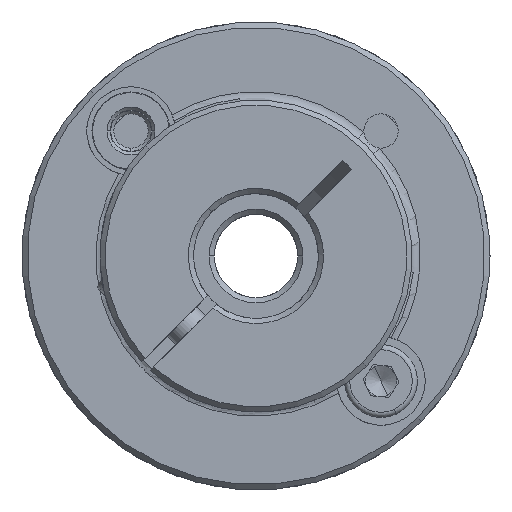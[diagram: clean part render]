
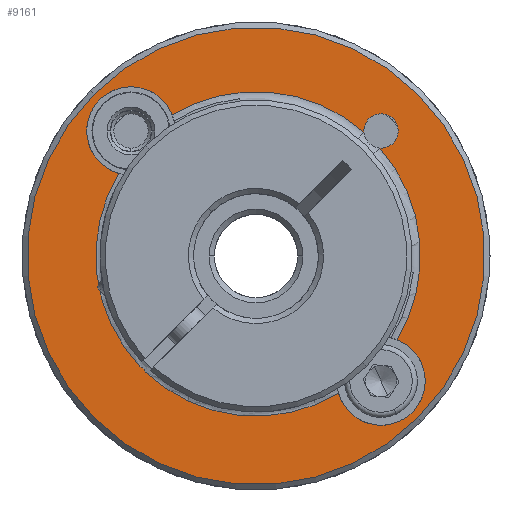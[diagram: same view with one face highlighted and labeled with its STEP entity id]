
A CAD part, front view. The second image highlights one B-rep face of the part: STEP entity #9161.
In plain terms, the highlighted planar face has unit normal (0, -1, 0).
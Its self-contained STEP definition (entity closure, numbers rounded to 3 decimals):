
#272 = ORIENTED_EDGE ( 'NONE', *, *, #9787, .T. ) ;
#445 = EDGE_LOOP ( 'NONE', ( #13131, #5374, #3339, #1591, #6461, #6977, #13062, #6037, #9650, #4809, #272, #13833 ) ) ;
#714 = AXIS2_PLACEMENT_3D ( 'NONE', #5473, #901, #5586 ) ;
#796 = FACE_BOUND ( 'NONE', #445, .T. ) ;
#819 = VERTEX_POINT ( 'NONE', #7408 ) ;
#901 = DIRECTION ( 'NONE',  ( 0., 1., 0. ) ) ;
#1108 = CIRCLE ( 'NONE', #8587, 22. ) ;
#1219 = DIRECTION ( 'NONE',  ( 0., -1., 0. ) ) ;
#1287 = CARTESIAN_POINT ( 'NONE',  ( 6.646, -12.641, 29.444 ) ) ;
#1583 = EDGE_CURVE ( 'NONE', #12409, #11974, #7886, .T. ) ;
#1591 = ORIENTED_EDGE ( 'NONE', *, *, #12467, .T. ) ;
#1984 = AXIS2_PLACEMENT_3D ( 'NONE', #7387, #3856, #11853 ) ;
#2005 = CARTESIAN_POINT ( 'NONE',  ( -23.937, -12.641, 60.026 ) ) ;
#3235 = EDGE_CURVE ( 'NONE', #6615, #8307, #5824, .T. ) ;
#3339 = ORIENTED_EDGE ( 'NONE', *, *, #4443, .T. ) ;
#3373 = CIRCLE ( 'NONE', #14863, 15.8 ) ;
#3589 = DIRECTION ( 'NONE',  ( -0.707, 0., 0.707 ) ) ;
#3856 = DIRECTION ( 'NONE',  ( 0., 1., 0. ) ) ;
#3872 = EDGE_LOOP ( 'NONE', ( #12657, #14725 ) ) ;
#3914 = AXIS2_PLACEMENT_3D ( 'NONE', #14069, #8181, #7040 ) ;
#4218 = EDGE_CURVE ( 'NONE', #6480, #9686, #5227, .T. ) ;
#4342 = DIRECTION ( 'NONE',  ( 0., 1., 0. ) ) ;
#4427 = EDGE_CURVE ( 'NONE', #819, #14023, #6714, .T. ) ;
#4443 = EDGE_CURVE ( 'NONE', #11974, #10557, #5611, .T. ) ;
#4458 = CARTESIAN_POINT ( 'NONE',  ( -8.911, -12.641, 45. ) ) ;
#4468 = CARTESIAN_POINT ( 'NONE',  ( 3.11, -12.641, 57.021 ) ) ;
#4473 = CARTESIAN_POINT ( 'NONE',  ( -8.911, -12.641, 45. ) ) ;
#4809 = ORIENTED_EDGE ( 'NONE', *, *, #4218, .T. ) ;
#4908 = CARTESIAN_POINT ( 'NONE',  ( -19.663, -12.641, 34.067 ) ) ;
#5009 = CARTESIAN_POINT ( 'NONE',  ( -20.068, -12.641, 34.385 ) ) ;
#5133 = EDGE_CURVE ( 'NONE', #12957, #9749, #9022, .T. ) ;
#5227 = CIRCLE ( 'NONE', #714, 4.25 ) ;
#5374 = ORIENTED_EDGE ( 'NONE', *, *, #1583, .T. ) ;
#5382 = AXIS2_PLACEMENT_3D ( 'NONE', #10453, #9129, #13813 ) ;
#5450 = AXIS2_PLACEMENT_3D ( 'NONE', #4468, #12566, #13721 ) ;
#5455 = CARTESIAN_POINT ( 'NONE',  ( -20.068, -12.641, 34.385 ) ) ;
#5473 = CARTESIAN_POINT ( 'NONE',  ( 3.11, -12.641, 32.979 ) ) ;
#5515 = CARTESIAN_POINT ( 'NONE',  ( -0.974, -12.641, 31.803 ) ) ;
#5586 = DIRECTION ( 'NONE',  ( -0.707, 0., 0.707 ) ) ;
#5611 = CIRCLE ( 'NONE', #11256, 4.25 ) ;
#5632 = DIRECTION ( 'NONE',  ( 0., 1., 0. ) ) ;
#5806 = EDGE_CURVE ( 'NONE', #6983, #6480, #11375, .T. ) ;
#5824 = CIRCLE ( 'NONE', #13754, 22. ) ;
#5826 = DIRECTION ( 'NONE',  ( -0.707, 0., 0.707 ) ) ;
#5851 = FACE_OUTER_BOUND ( 'NONE', #3872, .T. ) ;
#6037 = ORIENTED_EDGE ( 'NONE', *, *, #7855, .T. ) ;
#6077 = VERTEX_POINT ( 'NONE', #5455 ) ;
#6415 = DIRECTION ( 'NONE',  ( 0., 1., 0. ) ) ;
#6461 = ORIENTED_EDGE ( 'NONE', *, *, #5133, .T. ) ;
#6480 = VERTEX_POINT ( 'NONE', #6800 ) ;
#6576 = AXIS2_PLACEMENT_3D ( 'NONE', #4458, #5632, #9175 ) ;
#6615 = VERTEX_POINT ( 'NONE', #12990 ) ;
#6647 = CARTESIAN_POINT ( 'NONE',  ( -19.526, -12.641, 33.843 ) ) ;
#6714 = CIRCLE ( 'NONE', #13852, 1.65 ) ;
#6735 = AXIS2_PLACEMENT_3D ( 'NONE', #8494, #8344, #7269 ) ;
#6736 = CARTESIAN_POINT ( 'NONE',  ( -20.932, -12.641, 57.021 ) ) ;
#6800 = CARTESIAN_POINT ( 'NONE',  ( 6.115, -12.641, 29.974 ) ) ;
#6877 = DIRECTION ( 'NONE',  ( -0.707, 0., 0.707 ) ) ;
#6977 = ORIENTED_EDGE ( 'NONE', *, *, #12026, .T. ) ;
#6983 = VERTEX_POINT ( 'NONE', #11146 ) ;
#7016 = AXIS2_PLACEMENT_3D ( 'NONE', #12663, #8044, #5826 ) ;
#7040 = DIRECTION ( 'NONE',  ( -0.707, 0., 0.707 ) ) ;
#7269 = DIRECTION ( 'NONE',  ( -0.707, 0., 0.707 ) ) ;
#7283 = DIRECTION ( 'NONE',  ( -0.707, 0., 0.707 ) ) ;
#7387 = CARTESIAN_POINT ( 'NONE',  ( -20.932, -12.641, 57.021 ) ) ;
#7408 = CARTESIAN_POINT ( 'NONE',  ( 4.277, -12.641, 55.854 ) ) ;
#7517 = CARTESIAN_POINT ( 'NONE',  ( -8.911, -12.641, 45. ) ) ;
#7855 = EDGE_CURVE ( 'NONE', #14023, #6983, #3373, .T. ) ;
#7860 = DIRECTION ( 'NONE',  ( 0., -1., 0. ) ) ;
#7877 = DIRECTION ( 'NONE',  ( -0.707, 0., 0.707 ) ) ;
#7886 = CIRCLE ( 'NONE', #1984, 4.25 ) ;
#8044 = DIRECTION ( 'NONE',  ( 0., 1., 0. ) ) ;
#8181 = DIRECTION ( 'NONE',  ( 0., 1., 0. ) ) ;
#8205 = VERTEX_POINT ( 'NONE', #6647 ) ;
#8268 = CARTESIAN_POINT ( 'NONE',  ( 3.006, -12.641, 55.374 ) ) ;
#8307 = VERTEX_POINT ( 'NONE', #1287 ) ;
#8344 = DIRECTION ( 'NONE',  ( 0., 1., 0. ) ) ;
#8399 = CARTESIAN_POINT ( 'NONE',  ( -19.844, -12.641, 34.248 ) ) ;
#8494 = CARTESIAN_POINT ( 'NONE',  ( 3.11, -12.641, 32.979 ) ) ;
#8587 = AXIS2_PLACEMENT_3D ( 'NONE', #13007, #11961, #7283 ) ;
#8639 = AXIS2_PLACEMENT_3D ( 'NONE', #4473, #7860, #6877 ) ;
#9022 = CIRCLE ( 'NONE', #5450, 1.65 ) ;
#9129 = DIRECTION ( 'NONE',  ( 0., 1., 0. ) ) ;
#9161 = ADVANCED_FACE ( 'NONE', ( #796, #5851 ), #11509, .T. ) ;
#9175 = DIRECTION ( 'NONE',  ( -0.707, 0., 0.707 ) ) ;
#9217 = CIRCLE ( 'NONE', #5382, 1.65 ) ;
#9357 = EDGE_CURVE ( 'NONE', #8205, #6077, #12736, .T. ) ;
#9451 = CIRCLE ( 'NONE', #7016, 15.4 ) ;
#9650 = ORIENTED_EDGE ( 'NONE', *, *, #5806, .T. ) ;
#9686 = VERTEX_POINT ( 'NONE', #5515 ) ;
#9749 = VERTEX_POINT ( 'NONE', #11486 ) ;
#9787 = EDGE_CURVE ( 'NONE', #9686, #8205, #9451, .T. ) ;
#10003 = DIRECTION ( 'NONE',  ( 0., 1., 0. ) ) ;
#10146 = CIRCLE ( 'NONE', #3914, 15.4 ) ;
#10159 = CARTESIAN_POINT ( 'NONE',  ( 3.11, -12.641, 57.021 ) ) ;
#10204 = DIRECTION ( 'NONE',  ( -0.707, 0., 0.707 ) ) ;
#10453 = CARTESIAN_POINT ( 'NONE',  ( 3.11, -12.641, 57.021 ) ) ;
#10557 = VERTEX_POINT ( 'NONE', #14419 ) ;
#11146 = CARTESIAN_POINT ( 'NONE',  ( 4.674, -12.641, 36.931 ) ) ;
#11214 = CIRCLE ( 'NONE', #6576, 15.8 ) ;
#11256 = AXIS2_PLACEMENT_3D ( 'NONE', #6736, #10003, #10204 ) ;
#11375 = CIRCLE ( 'NONE', #6735, 4.25 ) ;
#11476 = CARTESIAN_POINT ( 'NONE',  ( -8.911, -12.641, 45. ) ) ;
#11486 = CARTESIAN_POINT ( 'NONE',  ( 1.943, -12.641, 58.188 ) ) ;
#11509 = PLANE ( 'NONE',  #8639 ) ;
#11578 = EDGE_CURVE ( 'NONE', #6077, #12409, #10146, .T. ) ;
#11853 = DIRECTION ( 'NONE',  ( -0.707, 0., 0.707 ) ) ;
#11961 = DIRECTION ( 'NONE',  ( 0., -1., 0. ) ) ;
#11974 = VERTEX_POINT ( 'NONE', #2005 ) ;
#12026 = EDGE_CURVE ( 'NONE', #9749, #819, #9217, .T. ) ;
#12184 = DIRECTION ( 'NONE',  ( -0.707, 0., 0.707 ) ) ;
#12409 = VERTEX_POINT ( 'NONE', #13512 ) ;
#12467 = EDGE_CURVE ( 'NONE', #10557, #12957, #11214, .T. ) ;
#12566 = DIRECTION ( 'NONE',  ( 0., 1., 0. ) ) ;
#12657 = ORIENTED_EDGE ( 'NONE', *, *, #13104, .T. ) ;
#12663 = CARTESIAN_POINT ( 'NONE',  ( -8.911, -12.641, 45. ) ) ;
#12736 = B_SPLINE_CURVE_WITH_KNOTS ( 'NONE', 3,
 ( #12948, #4908, #8399, #5009 ),
 .UNSPECIFIED., .F., .F.,
 ( 4, 4 ),
 ( 0., 1. ),
 .UNSPECIFIED. ) ;
#12948 = CARTESIAN_POINT ( 'NONE',  ( -19.526, -12.641, 33.843 ) ) ;
#12957 = VERTEX_POINT ( 'NONE', #14533 ) ;
#12990 = CARTESIAN_POINT ( 'NONE',  ( -24.467, -12.641, 60.556 ) ) ;
#13007 = CARTESIAN_POINT ( 'NONE',  ( -8.911, -12.641, 45. ) ) ;
#13062 = ORIENTED_EDGE ( 'NONE', *, *, #4427, .T. ) ;
#13104 = EDGE_CURVE ( 'NONE', #8307, #6615, #1108, .T. ) ;
#13131 = ORIENTED_EDGE ( 'NONE', *, *, #11578, .T. ) ;
#13512 = CARTESIAN_POINT ( 'NONE',  ( -22.108, -12.641, 52.937 ) ) ;
#13721 = DIRECTION ( 'NONE',  ( -0.707, 0., 0.707 ) ) ;
#13754 = AXIS2_PLACEMENT_3D ( 'NONE', #11476, #1219, #3589 ) ;
#13813 = DIRECTION ( 'NONE',  ( -0.707, 0., 0.707 ) ) ;
#13833 = ORIENTED_EDGE ( 'NONE', *, *, #9357, .T. ) ;
#13852 = AXIS2_PLACEMENT_3D ( 'NONE', #10159, #4342, #7877 ) ;
#14023 = VERTEX_POINT ( 'NONE', #8268 ) ;
#14069 = CARTESIAN_POINT ( 'NONE',  ( -8.911, -12.641, 45. ) ) ;
#14419 = CARTESIAN_POINT ( 'NONE',  ( -16.98, -12.641, 58.584 ) ) ;
#14533 = CARTESIAN_POINT ( 'NONE',  ( 1.463, -12.641, 56.917 ) ) ;
#14725 = ORIENTED_EDGE ( 'NONE', *, *, #3235, .T. ) ;
#14863 = AXIS2_PLACEMENT_3D ( 'NONE', #7517, #6415, #12184 ) ;
